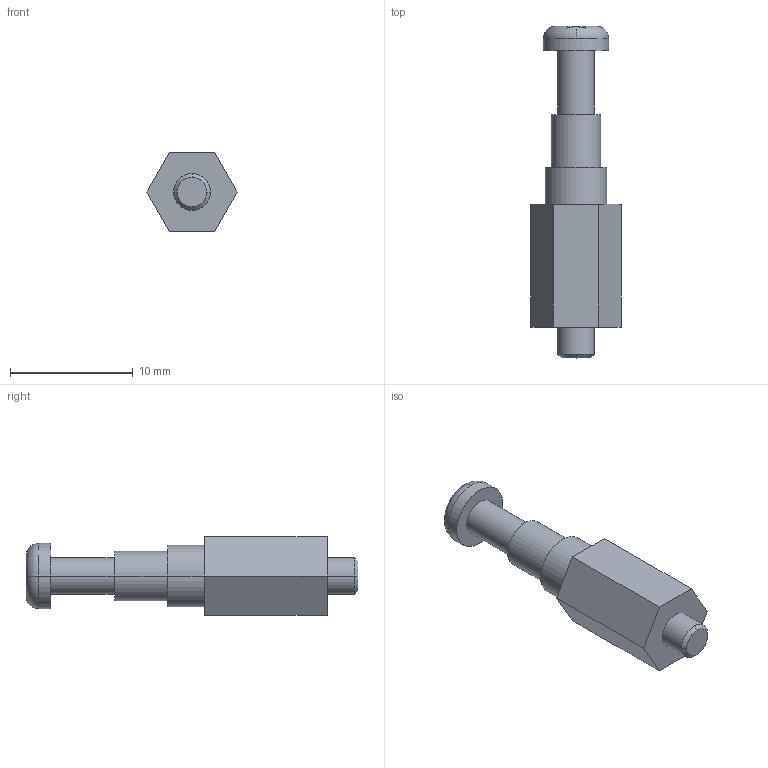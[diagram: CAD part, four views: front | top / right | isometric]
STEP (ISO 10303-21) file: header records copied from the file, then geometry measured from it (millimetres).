
FILE_DESCRIPTION(('STEP AP214'),'1');
FILE_NAME('r 15er Blower mit 13mm Abstand.stp','2026-05-22T10:02:01',('Lutz L. Zamecki'),('HSM Zamecki GmbH'),'Spatial InterOp 3D',' ',' ');
FILE_SCHEMA(('automotive_design'));
Length unit declared in the file: inch
Products named in the file (2): JACL511C-2_ASM|Next assembly relationship;JAS095CA; JACL511C-2_ASM|Next assembly relationship;JAU022
Bounding box: 7.33 x 27 x 6.35 mm (x, y, z)
Volume: 531.4 mm3; surface area: 659.2 mm2
Topology: 2 solids, 2 shells, 77 faces, 185 edges, 117 vertices
Faces by surface type: plane 31, cylinder 20, bspline 14, cone 8, torus 4
Entity records: 3467 total; most frequent: CARTESIAN_POINT 1116, ORIENTED_EDGE 370, DIRECTION 322, EDGE_CURVE 185, AXIS2_PLACEMENT_3D 122, VERTEX_POINT 117, EDGE_LOOP 82, STYLED_ITEM 79
